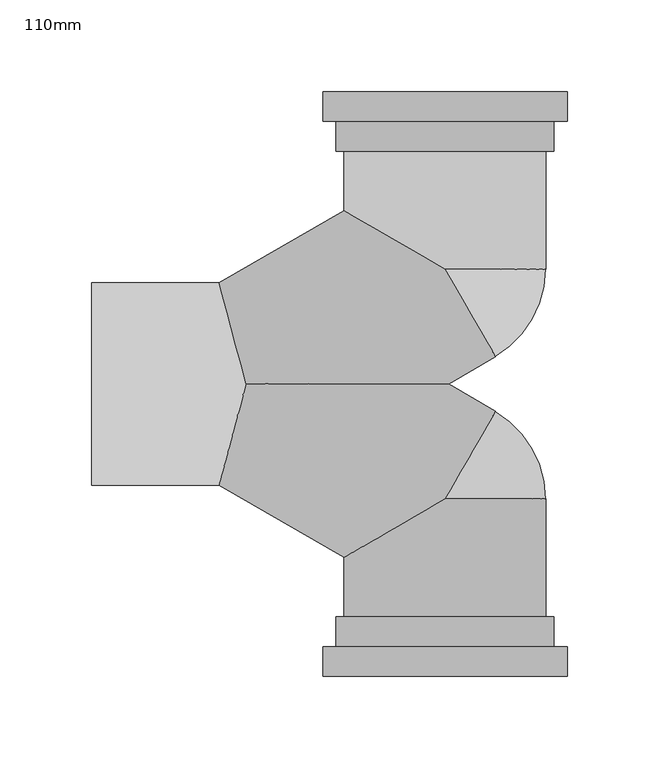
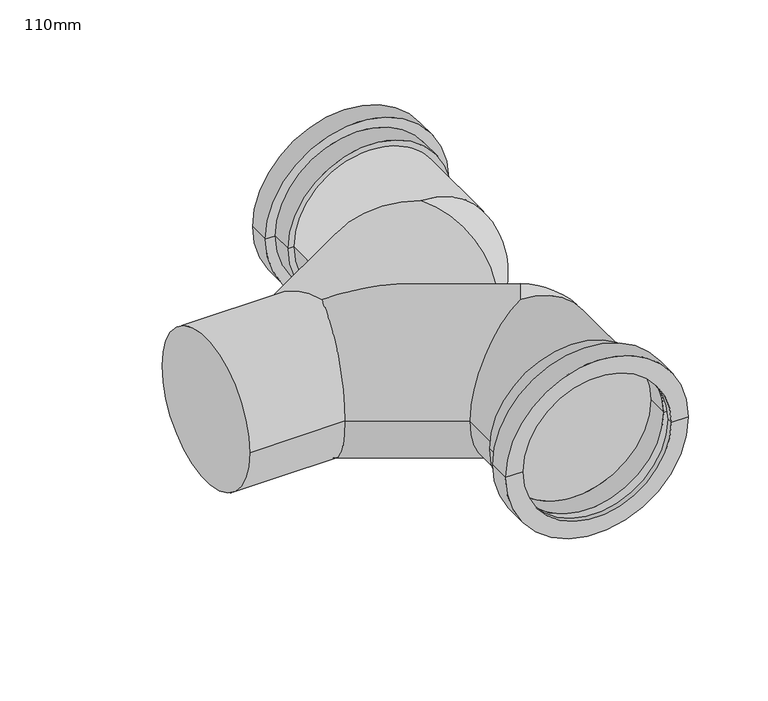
"""IFC4 building model written with IfcOpenShell, lengths in millimetres: pipe fitting geometry, Wavin_PipeFitting_PeBranchYWc : 110mm."""

from ifc_helpers import new_model, si_unit, point, frame, origin, place, context, project, spatial, polyline, circle_curve, ellipse_curve, trimmed, source, transform, mapped, element, save
from ifc_brep_helpers import plane_surface, cylinder_surface, revolved_surface, advanced_brep


def pipe_fitting_110mm_82014047(model_context):
    return source(origin(), model_context, "Body", "AdvancedBrep", [
        advanced_brep(
        [(135.7531755, 14.8686028, 0.0), (108.2531755, 62.5, 55.0), (53.2531755, 94.2542648, 0.0), (-14.7372056, 55.0, 0.0), (0.0, 0.0, 55.0), (110.0, 0.0, 0.0), (108.2531755, 62.5, -55.0), (0.0, 0.0, -55.0), (163.2531755, 62.5, 0.0), (163.7531755, 130.5, 0.0), (52.7531755, 130.5, 0.0), (163.2531755, 126.7, 0.0), (53.2531755, 126.7, 0.0), (-84.0, -55.0, 0.0), (-84.0, 55.0, 0.0), (-14.7372056, -55.0, 0.0), (135.7531755, -14.8686028, 0.0), (53.2531755, -94.2542648, 0.0), (108.2531755, -62.5, 55.0), (108.2531755, -62.5, -55.0), (52.7531755, -130.5, 0.0), (163.7531755, -130.5, 0.0), (53.2531755, -126.7, 0.0), (163.2531755, -126.7, 0.0), (163.2531755, -62.5, 0.0), (167.5531755, -126.7, 0.0), (48.9531755, -126.7, 0.0), (167.5531755, -142.8833679, 0.0), (48.9531755, -142.8833679, 0.0), (174.7531755, -142.8833679, 0.0), (41.7531755, -142.8833679, 0.0), (174.7531755, -158.8833679, 0.0), (41.7531755, -158.8833679, 0.0), (162.1531755, -158.8833679, 0.0), (54.3531755, -158.8833679, 0.0), (162.1531755, -155.0833679, 0.0), (54.3531755, -155.0833679, 0.0), (170.9531755, -155.0833679, 0.0), (45.5531755, -155.0833679, 0.0), (170.9531755, -146.6833679, 0.0), (45.5531755, -146.6833679, 0.0), (163.7531755, -146.6833679, 0.0), (52.7531755, -146.6833679, 0.0), (48.9531755, 126.7, 0.0), (167.5531755, 126.7, 0.0), (48.9531755, 142.8833679, 0.0), (167.5531755, 142.8833679, 0.0), (41.7531755, 142.8833679, 0.0), (174.7531755, 142.8833679, 0.0), (41.7531755, 158.8833679, 0.0), (174.7531755, 158.8833679, 0.0), (54.3531755, 158.8833679, 0.0), (162.1531755, 158.8833679, 0.0), (54.3531755, 155.0833679, 0.0), (162.1531755, 155.0833679, 0.0), (45.5531755, 155.0833679, 0.0), (170.9531755, 155.0833679, 0.0), (45.5531755, 146.6833679, 0.0), (170.9531755, 146.6833679, 0.0), (52.7531755, 146.6833679, 0.0), (163.7531755, 146.6833679, 0.0)],
        [
            (0, 1, circle_curve(frame((108.2531755, 62.5, 0.0), z_axis=(-0.866025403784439, -0.49999999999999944, 0.0), x_axis=(-0.49999999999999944, 0.866025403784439, 0.0)), 55.0)),
            (1, 2, ellipse_curve(frame((108.2531755, 62.5, 0.0), z_axis=(-0.5000000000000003, -0.8660254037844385, 0.0), x_axis=(-0.8660254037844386, 0.5000000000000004, 0.0)), 63.5085296, 55.0)),
            (2, 3),
            (3, 4, ellipse_curve(frame((0.0, 0.0, 0.0), z_axis=(0.9659258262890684, 0.25881904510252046, 0.0), x_axis=(0.25881904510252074, -0.9659258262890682, 0.0)), 56.9401899, 55.0)),
            (4, 5, ellipse_curve(frame((0.0, 0.0, 0.0), z_axis=(0.0, 1.0, 0.0), x_axis=(-1.0, 0.0, 0.0)), 110.0, 55.0)),
            (5, 0),
            (6, 0, circle_curve(frame((108.2531755, 62.5, 0.0), z_axis=(-0.866025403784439, -0.49999999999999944, 0.0), x_axis=(-0.49999999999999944, 0.866025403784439, 0.0)), 55.0)),
            (5, 7, ellipse_curve(frame((0.0, 0.0, 0.0), z_axis=(0.0, 1.0, 0.0), x_axis=(-1.0, 0.0, 0.0)), 110.0, 55.0)),
            (7, 3, ellipse_curve(frame((0.0, 0.0, 0.0), z_axis=(0.9659258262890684, 0.25881904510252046, 0.0), x_axis=(0.25881904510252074, -0.9659258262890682, 0.0)), 56.9401899, 55.0)),
            (2, 6, ellipse_curve(frame((108.2531755, 62.5, 0.0), z_axis=(-0.5000000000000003, -0.8660254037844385, 0.0), x_axis=(-0.8660254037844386, 0.5000000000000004, 0.0)), 63.5085296, 55.0)),
            (6, 8, circle_curve(frame((108.2531755, 62.5, 0.0), z_axis=(0.0, -1.0, 0.0), x_axis=(1.0, 0.0, 0.0)), 55.0)),
            (8, 1, circle_curve(frame((108.2531755, 62.5, 0.0), z_axis=(0.0, -1.0, 0.0), x_axis=(1.0, 0.0, 0.0)), 55.0)),
            (9, 10, circle_curve(frame((108.2531755, 130.5, 0.0), z_axis=(0.0, 1.0, 0.0), x_axis=(1.0, 0.0, 0.0)), 55.5)),
            (10, 9, circle_curve(frame((108.2531755, 130.5, 0.0), z_axis=(0.0, 1.0, 0.0), x_axis=(1.0, 0.0, 0.0)), 55.5)),
            (8, 11),
            (11, 12, circle_curve(frame((108.2531755, 126.7, 0.0), z_axis=(0.0, -1.0, 0.0), x_axis=(-1.0, 0.0, 0.0)), 55.0)),
            (12, 2),
            (12, 11, circle_curve(frame((108.2531755, 126.7, 0.0), z_axis=(0.0, -1.0, 0.0), x_axis=(-1.0, 0.0, 0.0)), 55.0)),
            (13, 14, circle_curve(frame((-84.0, 0.0, 0.0), z_axis=(-1.0, 0.0, 0.0), x_axis=(0.0, 1.0, 0.0)), 55.0)),
            (14, 13, circle_curve(frame((-84.0, 0.0, 0.0), z_axis=(-1.0, 0.0, 0.0), x_axis=(0.0, 1.0, 0.0)), 55.0)),
            (14, 3),
            (7, 15, ellipse_curve(frame((0.0, 0.0, 0.0), z_axis=(-0.9659258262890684, 0.25881904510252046, 0.0), x_axis=(0.25881904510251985, 0.9659258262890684, 0.0)), 56.9401899, 55.0)),
            (15, 13),
            (15, 4, ellipse_curve(frame((0.0, 0.0, 0.0), z_axis=(-0.9659258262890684, 0.25881904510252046, 0.0), x_axis=(0.25881904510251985, 0.9659258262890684, 0.0)), 56.9401899, 55.0)),
            (16, 5),
            (15, 17),
            (17, 18, ellipse_curve(frame((108.2531755, -62.5, 0.0), z_axis=(-0.5000000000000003, 0.8660254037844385, 0.0), x_axis=(-0.8660254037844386, -0.5000000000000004, 0.0)), 63.5085296, 55.0)),
            (18, 16, circle_curve(frame((108.2531755, -62.5, 0.0), z_axis=(-0.866025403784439, 0.49999999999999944, 0.0), x_axis=(0.49999999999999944, 0.866025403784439, 0.0)), 55.0)),
            (16, 19, circle_curve(frame((108.2531755, -62.5, 0.0), z_axis=(-0.866025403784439, 0.49999999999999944, 0.0), x_axis=(0.49999999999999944, 0.866025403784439, 0.0)), 55.0)),
            (19, 17, ellipse_curve(frame((108.2531755, -62.5, 0.0), z_axis=(-0.5000000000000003, 0.8660254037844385, 0.0), x_axis=(-0.8660254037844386, -0.5000000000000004, 0.0)), 63.5085296, 55.0)),
            (20, 21, circle_curve(frame((108.2531755, -130.5, 0.0), z_axis=(0.0, -1.0, 0.0), x_axis=(1.0, 0.0, 0.0)), 55.5)),
            (21, 20, circle_curve(frame((108.2531755, -130.5, 0.0), z_axis=(0.0, -1.0, 0.0), x_axis=(1.0, 0.0, 0.0)), 55.5)),
            (17, 22),
            (22, 23, circle_curve(frame((108.2531755, -126.7, 0.0), z_axis=(0.0, 1.0, 0.0), x_axis=(1.0, 0.0, 0.0)), 55.0)),
            (23, 24),
            (24, 18, circle_curve(frame((108.2531755, -62.5, 0.0), z_axis=(0.0, -1.0, 0.0), x_axis=(1.0, 0.0, 0.0)), 55.0)),
            (19, 24, circle_curve(frame((108.2531755, -62.5, 0.0), z_axis=(0.0, -1.0, 0.0), x_axis=(1.0, 0.0, 0.0)), 55.0)),
            (23, 22, circle_curve(frame((108.2531755, -126.7, 0.0), z_axis=(0.0, 1.0, 0.0), x_axis=(1.0, 0.0, 0.0)), 55.0)),
            (25, 26, circle_curve(frame((108.2531755, -126.7, 0.0), z_axis=(0.0, 1.0, 0.0), x_axis=(1.0, 0.0, 0.0)), 59.3)),
            (26, 22),
            (23, 25),
            (26, 25, circle_curve(frame((108.2531755, -126.7, 0.0), z_axis=(0.0, 1.0, 0.0), x_axis=(1.0, 0.0, 0.0)), 59.3)),
            (25, 27),
            (27, 28, circle_curve(frame((108.2531755, -142.8833679, 0.0), z_axis=(0.0, 1.0, 0.0), x_axis=(1.0, 0.0, 0.0)), 59.3)),
            (28, 26),
            (28, 27, circle_curve(frame((108.2531755, -142.8833679, 0.0), z_axis=(0.0, 1.0, 0.0), x_axis=(1.0, 0.0, 0.0)), 59.3)),
            (27, 29),
            (29, 30, circle_curve(frame((108.2531755, -142.8833679, 0.0), z_axis=(0.0, 1.0, 0.0), x_axis=(1.0, 0.0, 0.0)), 66.5)),
            (30, 28),
            (30, 29, circle_curve(frame((108.2531755, -142.8833679, 0.0), z_axis=(0.0, 1.0, 0.0), x_axis=(1.0, 0.0, 0.0)), 66.5)),
            (29, 31),
            (31, 32, circle_curve(frame((108.2531755, -158.8833679, 0.0), z_axis=(0.0, 1.0, 0.0), x_axis=(1.0, 0.0, 0.0)), 66.5)),
            (32, 30),
            (32, 31, circle_curve(frame((108.2531755, -158.8833679, 0.0), z_axis=(0.0, 1.0, 0.0), x_axis=(1.0, 0.0, 0.0)), 66.5)),
            (31, 33),
            (33, 34, circle_curve(frame((108.2531755, -158.8833679, 0.0), z_axis=(0.0, 1.0, 0.0), x_axis=(1.0, 0.0, 0.0)), 53.9)),
            (34, 32),
            (34, 33, circle_curve(frame((108.2531755, -158.8833679, 0.0), z_axis=(0.0, 1.0, 0.0), x_axis=(1.0, 0.0, 0.0)), 53.9)),
            (33, 35),
            (35, 36, circle_curve(frame((108.2531755, -155.0833679, 0.0), z_axis=(0.0, 1.0, 0.0), x_axis=(1.0, 0.0, 0.0)), 53.9)),
            (36, 34),
            (36, 35, circle_curve(frame((108.2531755, -155.0833679, 0.0), z_axis=(0.0, 1.0, 0.0), x_axis=(1.0, 0.0, 0.0)), 53.9)),
            (35, 37),
            (37, 38, circle_curve(frame((108.2531755, -155.0833679, 0.0), z_axis=(0.0, 1.0, 0.0), x_axis=(1.0, 0.0, 0.0)), 62.7)),
            (38, 36),
            (38, 37, circle_curve(frame((108.2531755, -155.0833679, 0.0), z_axis=(0.0, 1.0, 0.0), x_axis=(1.0, 0.0, 0.0)), 62.7)),
            (37, 39),
            (39, 40, circle_curve(frame((108.2531755, -146.6833679, 0.0), z_axis=(0.0, 1.0, 0.0), x_axis=(1.0, 0.0, 0.0)), 62.7)),
            (40, 38),
            (40, 39, circle_curve(frame((108.2531755, -146.6833679, 0.0), z_axis=(0.0, 1.0, 0.0), x_axis=(1.0, 0.0, 0.0)), 62.7)),
            (39, 41),
            (41, 42, circle_curve(frame((108.2531755, -146.6833679, 0.0), z_axis=(0.0, 1.0, 0.0), x_axis=(1.0, 0.0, 0.0)), 55.5)),
            (42, 40),
            (42, 41, circle_curve(frame((108.2531755, -146.6833679, 0.0), z_axis=(0.0, 1.0, 0.0), x_axis=(1.0, 0.0, 0.0)), 55.5)),
            (20, 42),
            (41, 21),
            (43, 44, circle_curve(frame((108.2531755, 126.7, 0.0), z_axis=(0.0, -1.0, 0.0), x_axis=(1.0, 0.0, 0.0)), 59.3)),
            (44, 11),
            (12, 43),
            (44, 43, circle_curve(frame((108.2531755, 126.7, 0.0), z_axis=(0.0, -1.0, 0.0), x_axis=(1.0, 0.0, 0.0)), 59.3)),
            (43, 45),
            (45, 46, circle_curve(frame((108.2531755, 142.8833679, 0.0), z_axis=(0.0, -1.0, 0.0), x_axis=(1.0, 0.0, 0.0)), 59.3)),
            (46, 44),
            (46, 45, circle_curve(frame((108.2531755, 142.8833679, 0.0), z_axis=(0.0, -1.0, 0.0), x_axis=(1.0, 0.0, 0.0)), 59.3)),
            (45, 47),
            (47, 48, circle_curve(frame((108.2531755, 142.8833679, 0.0), z_axis=(0.0, -1.0, 0.0), x_axis=(1.0, 0.0, 0.0)), 66.5)),
            (48, 46),
            (48, 47, circle_curve(frame((108.2531755, 142.8833679, 0.0), z_axis=(0.0, -1.0, 0.0), x_axis=(1.0, 0.0, 0.0)), 66.5)),
            (47, 49),
            (49, 50, circle_curve(frame((108.2531755, 158.8833679, 0.0), z_axis=(0.0, -1.0, 0.0), x_axis=(1.0, 0.0, 0.0)), 66.5)),
            (50, 48),
            (50, 49, circle_curve(frame((108.2531755, 158.8833679, 0.0), z_axis=(0.0, -1.0, 0.0), x_axis=(1.0, 0.0, 0.0)), 66.5)),
            (49, 51),
            (51, 52, circle_curve(frame((108.2531755, 158.8833679, 0.0), z_axis=(0.0, -1.0, 0.0), x_axis=(1.0, 0.0, 0.0)), 53.9)),
            (52, 50),
            (52, 51, circle_curve(frame((108.2531755, 158.8833679, 0.0), z_axis=(0.0, -1.0, 0.0), x_axis=(1.0, 0.0, 0.0)), 53.9)),
            (51, 53),
            (53, 54, circle_curve(frame((108.2531755, 155.0833679, 0.0), z_axis=(0.0, -1.0, 0.0), x_axis=(1.0, 0.0, 0.0)), 53.9)),
            (54, 52),
            (54, 53, circle_curve(frame((108.2531755, 155.0833679, 0.0), z_axis=(0.0, -1.0, 0.0), x_axis=(1.0, 0.0, 0.0)), 53.9)),
            (53, 55),
            (55, 56, circle_curve(frame((108.2531755, 155.0833679, 0.0), z_axis=(0.0, -1.0, 0.0), x_axis=(1.0, 0.0, 0.0)), 62.7)),
            (56, 54),
            (56, 55, circle_curve(frame((108.2531755, 155.0833679, 0.0), z_axis=(0.0, -1.0, 0.0), x_axis=(1.0, 0.0, 0.0)), 62.7)),
            (55, 57),
            (57, 58, circle_curve(frame((108.2531755, 146.6833679, 0.0), z_axis=(0.0, -1.0, 0.0), x_axis=(1.0, 0.0, 0.0)), 62.7)),
            (58, 56),
            (58, 57, circle_curve(frame((108.2531755, 146.6833679, 0.0), z_axis=(0.0, -1.0, 0.0), x_axis=(1.0, 0.0, 0.0)), 62.7)),
            (57, 59),
            (59, 60, circle_curve(frame((108.2531755, 146.6833679, 0.0), z_axis=(0.0, -1.0, 0.0), x_axis=(1.0, 0.0, 0.0)), 55.5)),
            (60, 58),
            (60, 59, circle_curve(frame((108.2531755, 146.6833679, 0.0), z_axis=(0.0, -1.0, 0.0), x_axis=(1.0, 0.0, 0.0)), 55.5)),
            (9, 60),
            (59, 10),
        ],
        [
            cylinder_surface(frame((0.0, 0.0, 0.0), z_axis=(-0.866025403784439, -0.49999999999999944, 0.0), x_axis=(-0.49999999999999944, 0.866025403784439, 0.0)), 55.0),
            revolved_surface(trimmed(ellipse_curve(frame((108.2531755, 62.5, 0.0), z_axis=(0.0, 1.0, 0.0), x_axis=(1.0, 0.0, 0.0)), 55.0, 55.0), [point((108.2531755, 62.5, 55.0))], [point((108.2531755, 62.5, -55.0))], True, "CARTESIAN"), (108.2531755, 62.5, 55.0), (0.0, 0.0, -1.0)),
            plane_surface(frame((108.2531755, 130.5, 0.0), z_axis=(0.0, 1.0, 0.0), x_axis=(0.0, 0.0, 1.0))),
            cylinder_surface(frame((108.2531755, 62.5, 0.0), z_axis=(0.0, -1.0, 0.0), x_axis=(-1.0, 0.0, 0.0)), 55.0),
            plane_surface(frame((-84.0, 55.0, 0.0), z_axis=(-1.0, 0.0, 0.0), x_axis=(0.0, 0.0, -1.0))),
            cylinder_surface(frame((-84.0, 0.0, 0.0), z_axis=(1.0, 0.0, 0.0), x_axis=(0.0, 1.0, 0.0)), 55.0),
            cylinder_surface(frame((0.0, 0.0, 0.0), z_axis=(-0.866025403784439, 0.49999999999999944, 0.0), x_axis=(0.49999999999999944, 0.866025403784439, 0.0)), 55.0),
            plane_surface(frame((108.2531755, -130.5, 0.0), z_axis=(0.0, -1.0, 0.0), x_axis=(0.0, 0.0, 1.0))),
            cylinder_surface(frame((108.2531755, -62.5, 0.0), z_axis=(0.0, 1.0, 0.0), x_axis=(1.0, 0.0, 0.0)), 55.0),
            revolved_surface(trimmed(ellipse_curve(frame((108.2531755, -62.5, 0.0), z_axis=(0.0, -1.0, 0.0), x_axis=(-1.0, 0.0, 0.0)), 55.0, 55.0), [point((108.2531755, -62.5, -55.0))], [point((108.2531755, -62.5, 55.0))], True, "CARTESIAN"), (108.2531755, -62.5, 55.0), (0.0, 0.0, 1.0)),
            plane_surface(frame((108.2531755, -126.7, 0.0), z_axis=(0.0, 1.0, 0.0), x_axis=(1.0, 0.0, 0.0))),
            cylinder_surface(frame((108.2531755, -76.3166321, 0.0), z_axis=(0.0, 1.0, 0.0), x_axis=(1.0, 0.0, 0.0)), 59.3),
            plane_surface(frame((108.2531755, -142.8833679, 0.0), z_axis=(0.0, 1.0, 0.0), x_axis=(1.0, 0.0, 0.0))),
            cylinder_surface(frame((108.2531755, -76.3166321, 0.0), z_axis=(0.0, 1.0, 0.0), x_axis=(1.0, 0.0, 0.0)), 66.5),
            plane_surface(frame((108.2531755, -158.8833679, 0.0), z_axis=(0.0, -1.0, 0.0), x_axis=(1.0, 0.0, 0.0))),
            revolved_surface(polyline([(162.1531755, -155.0833679, 0.0), (162.1531755, -158.8833679, 0.0)]), (108.2531755, -76.3166321, 0.0), (0.0, 1.0, 0.0)),
            plane_surface(frame((108.2531755, -155.0833679, 0.0), z_axis=(0.0, 1.0, 0.0), x_axis=(1.0, 0.0, 0.0))),
            revolved_surface(polyline([(170.9531755, -146.6833679, 0.0), (170.9531755, -155.0833679, 0.0)]), (108.2531755, -76.3166321, 0.0), (0.0, 1.0, 0.0)),
            plane_surface(frame((108.2531755, -146.6833679, 0.0), z_axis=(0.0, -1.0, 0.0), x_axis=(1.0, 0.0, 0.0))),
            revolved_surface(polyline([(163.7531755, -130.5, 0.0), (163.7531755, -146.6833679, 0.0)]), (108.2531755, -76.3166321, 0.0), (0.0, 1.0, 0.0)),
            plane_surface(frame((108.2531755, 126.7, 0.0), z_axis=(0.0, -1.0, 0.0), x_axis=(1.0, 0.0, 0.0))),
            cylinder_surface(frame((108.2531755, 76.3166321, 0.0), z_axis=(0.0, 1.0, 0.0), x_axis=(1.0, 0.0, 0.0)), 59.3),
            plane_surface(frame((108.2531755, 142.8833679, 0.0), z_axis=(0.0, -1.0, 0.0), x_axis=(1.0, 0.0, 0.0))),
            cylinder_surface(frame((108.2531755, 76.3166321, 0.0), z_axis=(0.0, 1.0, 0.0), x_axis=(1.0, 0.0, 0.0)), 66.5),
            plane_surface(frame((108.2531755, 158.8833679, 0.0), z_axis=(0.0, 1.0, 0.0), x_axis=(1.0, 0.0, 0.0))),
            revolved_surface(polyline([(162.1531755, 158.8833679, 0.0), (162.1531755, 155.0833679, 0.0)]), (108.2531755, 76.3166321, 0.0), (0.0, 1.0, 0.0)),
            plane_surface(frame((108.2531755, 155.0833679, 0.0), z_axis=(0.0, -1.0, 0.0), x_axis=(1.0, 0.0, 0.0))),
            revolved_surface(polyline([(170.9531755, 155.0833679, 0.0), (170.9531755, 146.6833679, 0.0)]), (108.2531755, 76.3166321, 0.0), (0.0, 1.0, 0.0)),
            plane_surface(frame((108.2531755, 146.6833679, 0.0), z_axis=(0.0, 1.0, 0.0), x_axis=(1.0, 0.0, 0.0))),
            revolved_surface(polyline([(163.7531755, 146.6833679, 0.0), (163.7531755, 130.5, 0.0)]), (108.2531755, 76.3166321, 0.0), (0.0, 1.0, 0.0)),
        ],
        [
            (0, [[1, 2, 3, 4, 5, 6]]),
            (0, [[7, -6, 8, 9, -3, 10]]),
            (1, [[-1, -7, 11, 12]]),
            (2, [[13, 14]]),
            (3, [[-2, -12, 15, 16, 17]]),
            (3, [[-10, -17, 18, -15, -11]]),
            (4, [[19, 20]]),
            (5, [[-20, 21, -9, 22, 23]]),
            (5, [[-19, -23, 24, -4, -21]]),
            (6, [[25, -5, -24, 26, 27, 28]]),
            (6, [[-25, 29, 30, -26, -22, -8]]),
            (7, [[31, 32]]),
            (8, [[-27, 33, 34, 35, 36]]),
            (8, [[-30, 37, -35, 38, -33]]),
            (9, [[-28, -36, -37, -29]]),
            (10, [[39, 40, -38, 41]]),
            (10, [[42, -41, -34, -40]]),
            (11, [[-39, 43, 44, 45]]),
            (11, [[-42, -45, 46, -43]]),
            (12, [[-44, 47, 48, 49]]),
            (12, [[-46, -49, 50, -47]]),
            (13, [[-48, 51, 52, 53]]),
            (13, [[-50, -53, 54, -51]]),
            (14, [[-52, 55, 56, 57]]),
            (14, [[-54, -57, 58, -55]]),
            (15, [[-56, 59, 60, 61]]),
            (15, [[-58, -61, 62, -59]]),
            (16, [[-60, 63, 64, 65]]),
            (16, [[-62, -65, 66, -63]]),
            (17, [[-64, 67, 68, 69]]),
            (17, [[-66, -69, 70, -67]]),
            (18, [[-68, 71, 72, 73]]),
            (18, [[-70, -73, 74, -71]]),
            (19, [[-31, 75, -72, 76]]),
            (19, [[-32, -76, -74, -75]]),
            (20, [[77, 78, -18, 79]]),
            (20, [[80, -79, -16, -78]]),
            (21, [[-77, 81, 82, 83]]),
            (21, [[-80, -83, 84, -81]]),
            (22, [[-82, 85, 86, 87]]),
            (22, [[-84, -87, 88, -85]]),
            (23, [[-86, 89, 90, 91]]),
            (23, [[-88, -91, 92, -89]]),
            (24, [[-90, 93, 94, 95]]),
            (24, [[-92, -95, 96, -93]]),
            (25, [[-94, 97, 98, 99]]),
            (25, [[-96, -99, 100, -97]]),
            (26, [[-98, 101, 102, 103]]),
            (26, [[-100, -103, 104, -101]]),
            (27, [[-102, 105, 106, 107]]),
            (27, [[-104, -107, 108, -105]]),
            (28, [[-106, 109, 110, 111]]),
            (28, [[-108, -111, 112, -109]]),
            (29, [[-13, 113, -110, 114]]),
            (29, [[-14, -114, -112, -113]]),
        ],
    ),
    ])


if __name__ == "__main__":
    model = new_model("IFC4")
    model_context = context("Model", 3, world=origin())
    ifc_project = project(units=[si_unit("LENGTHUNIT", "METRE", prefix="MILLI")], contexts=[model_context])
    site = spatial("IfcSite", under=ifc_project)
    building = spatial("IfcBuilding", under=site)
    placement = place(None, origin())
    pipe_fitting_110mm_shape = pipe_fitting_110mm_82014047(model_context)
    element("IfcPipeFitting", 1, ObjectType="Wavin_PipeFitting_PeBranchYWc : 110mm", at=placement, inside=building, context=model_context, shape_type="MappedRepresentation", body=[
        mapped(pipe_fitting_110mm_shape, transform((0.0, 0.0, 0.0), x_axis=(1.0, 0.0, 0.0), y_axis=(0.0, 1.0, 0.0), z_axis=(0.0, 0.0, 1.0))),
    ])
    save(model, "model.ifc")
